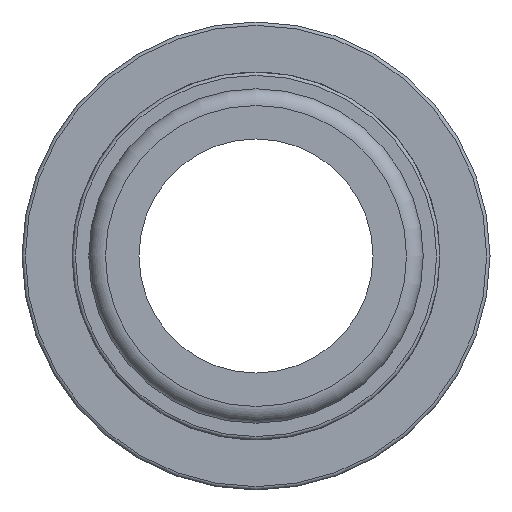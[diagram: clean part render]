
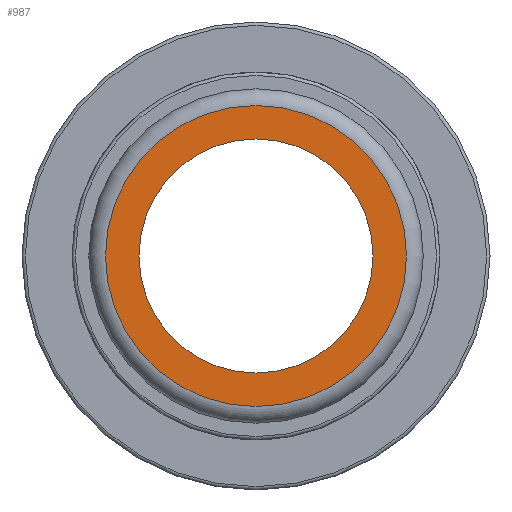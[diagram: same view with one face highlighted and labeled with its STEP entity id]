
A CAD part, left-side view. The second image highlights one B-rep face of the part: STEP entity #987.
In plain terms, the highlighted planar face has unit normal (-1, 0, 0).
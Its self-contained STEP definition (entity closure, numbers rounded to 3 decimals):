
#181=PLANE('',#1101);
#217=FACE_BOUND('',#343,.T.);
#273=FACE_OUTER_BOUND('',#342,.T.);
#342=EDGE_LOOP('',(#913));
#343=EDGE_LOOP('',(#914));
#402=CIRCLE('',#1099,11.898);
#404=CIRCLE('',#1102,9.254);
#500=VERTEX_POINT('',#1872);
#502=VERTEX_POINT('',#1877);
#640=EDGE_CURVE('',#500,#500,#402,.T.);
#642=EDGE_CURVE('',#502,#502,#404,.T.);
#913=ORIENTED_EDGE('',*,*,#640,.F.);
#914=ORIENTED_EDGE('',*,*,#642,.T.);
#987=ADVANCED_FACE('',(#273,#217),#181,.T.);
#1099=AXIS2_PLACEMENT_3D('',#1873,#1380,#1381);
#1101=AXIS2_PLACEMENT_3D('',#1876,#1384,#1385);
#1102=AXIS2_PLACEMENT_3D('',#1878,#1386,#1387);
#1380=DIRECTION('center_axis',(1.,0.,0.));
#1381=DIRECTION('ref_axis',(0.,-1.,0.));
#1384=DIRECTION('center_axis',(-1.,0.,0.));
#1385=DIRECTION('ref_axis',(0.,0.,1.));
#1386=DIRECTION('center_axis',(1.,0.,0.));
#1387=DIRECTION('ref_axis',(0.,0.,-1.));
#1872=CARTESIAN_POINT('',(-80.,11.898,0.));
#1873=CARTESIAN_POINT('Origin',(-80.,0.,0.));
#1876=CARTESIAN_POINT('Origin',(-80.,13.221,0.));
#1877=CARTESIAN_POINT('',(-80.,9.254,0.));
#1878=CARTESIAN_POINT('Origin',(-80.,0.,0.));
